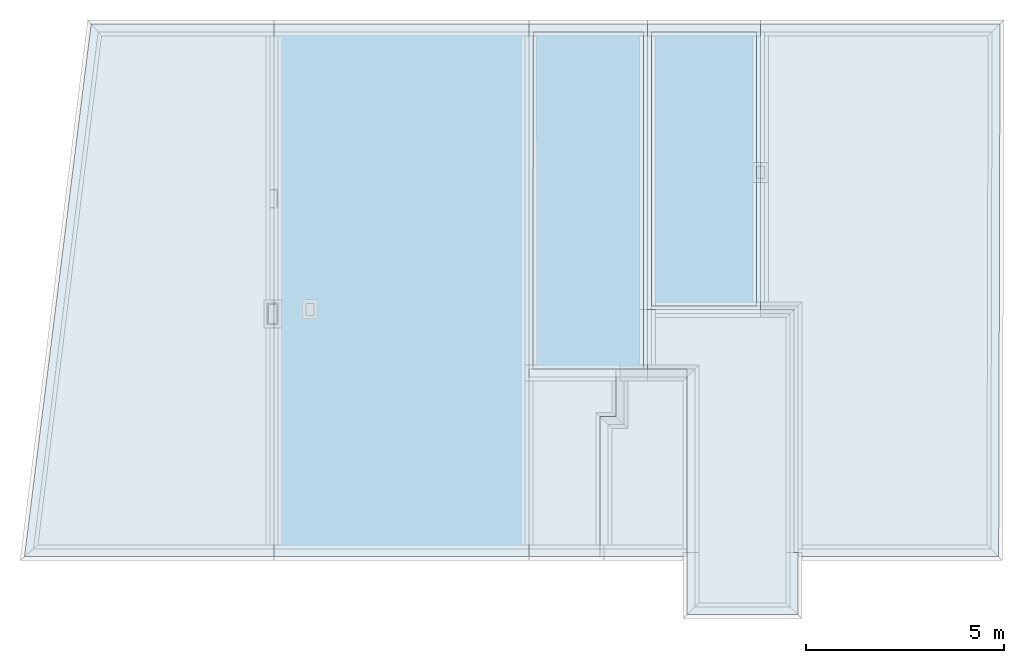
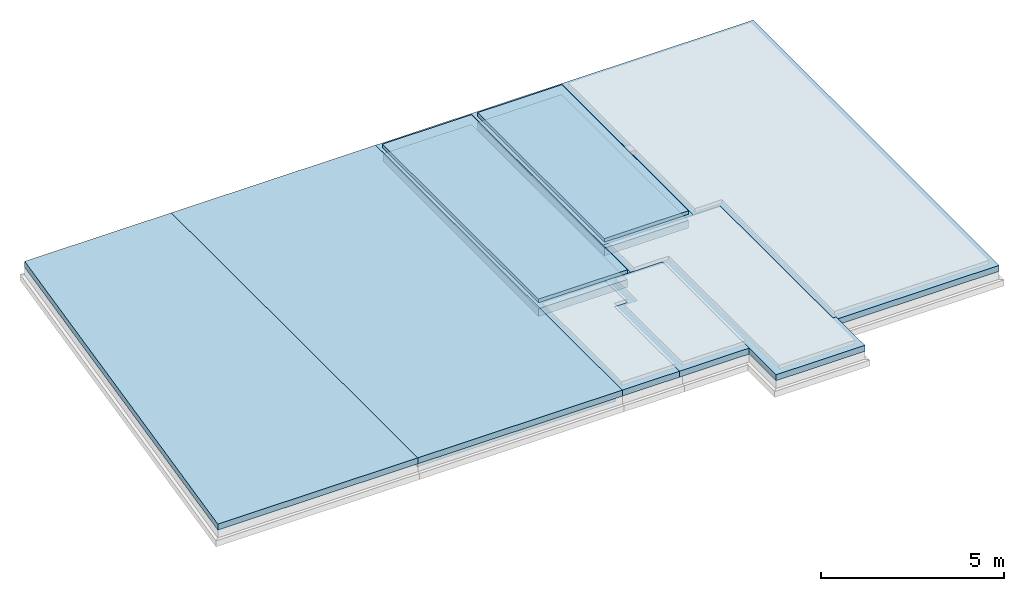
# One storey, part 5 of 6: 12 slabs.
"""IFC2X3 building model written with IfcOpenShell, lengths in metres."""

import ifcopenshell
import ifcopenshell.guid

model = None  # the IFC model being written
_history = None  # IfcOwnerHistory: only IFC2X3 demands one
_inside = {}  # id of a spatial element -> (the spatial element, [elements in it])
_under = {}  # id of a project, library or spatial element -> (it, [spatial elements below it])
_declared = {}  # id of a project -> (the project, [libraries it declares])
_typed = {}  # id of a type object -> (the type object, [elements of that type])
_made_of = {}  # id of a material, layer set ... -> (it, [elements and type objects made of it])


def new_model(schema):
    """Start an empty IFC model of exactly this schema.

    Asked for "IFC4X3", IfcOpenShell would pick the latest addendum, in which some entities
    have other attributes; the version numbers below select the first issue.
    IFC2X3 requires an IfcOwnerHistory on every rooted entity: one is made here for all.
    """
    global model, _history
    if schema == "IFC4X3":
        model = ifcopenshell.file(schema_version=(4, 3, 0, 0))
    else:
        model = ifcopenshell.file(schema=schema)
    _inside.clear()
    _under.clear()
    _declared.clear()
    _typed.clear()
    _made_of.clear()
    _history = None
    if model.schema == "IFC2X3":
        org = make("IfcOrganization", Name="unknown")
        user = make(
            "IfcPersonAndOrganization",
            ThePerson=make("IfcPerson", FamilyName="unknown"),
            TheOrganization=org,
        )
        app = make(
            "IfcApplication",
            ApplicationDeveloper=org,
            Version="unknown",
            ApplicationFullName="unknown",
            ApplicationIdentifier="unknown",
        )
        _history = make(
            "IfcOwnerHistory",
            OwningUser=user,
            OwningApplication=app,
            ChangeAction="ADDED",
            CreationDate=0,
        )
    return model


def make(cls, **values):
    """One entity of the class cls with the attributes given. An attribute that is None is left unset."""
    return model.create_entity(
        cls, **{name: value for name, value in values.items() if value is not None}
    )


def rooted(cls, **values):
    """An entity with a GlobalId (a new one), such as an element, a storey or a relation."""
    return make(cls, GlobalId=ifcopenshell.guid.new(), OwnerHistory=_history, **values)


def si_unit(unit_type, name, prefix=None):
    """IfcSIUnit, for example si_unit("LENGTHUNIT", "METRE", prefix="MILLI")."""
    return make("IfcSIUnit", UnitType=unit_type, Prefix=prefix, Name=name)


def assignment(units):
    """IfcUnitAssignment: the units of a project."""
    return None if units is None else make("IfcUnitAssignment", Units=units)


def point(xyz):
    """IfcCartesianPoint."""
    return None if xyz is None else make("IfcCartesianPoint", Coordinates=xyz)


def direction(xyz):
    """IfcDirection."""
    return None if xyz is None else make("IfcDirection", DirectionRatios=xyz)


def frame(location, z_axis=None, x_axis=None):
    """IfcAxis2Placement3D, a coordinate frame: its origin and axes. An axis left out is left unset."""
    return make(
        "IfcAxis2Placement3D",
        Location=point(location),
        Axis=direction(z_axis),
        RefDirection=direction(x_axis),
    )


def origin_with_axes():
    """The frame at (0, 0, 0) with the z axis (0, 0, 1) and the x axis (1, 0, 0) written out."""
    return frame((0.0, 0.0, 0.0), z_axis=(0.0, 0.0, 1.0), x_axis=(1.0, 0.0, 0.0))


def place(relative_to, where):
    """IfcLocalPlacement: puts the frame where relative to a parent placement (None: the world)."""
    return make(
        "IfcLocalPlacement", PlacementRelTo=relative_to, RelativePlacement=where
    )


def context(
    kind, dimensions, precision=None, world=None, true_north=None, identifier=None
):
    """IfcGeometricRepresentationContext, for example the 3D "Model" context."""
    return make(
        "IfcGeometricRepresentationContext",
        ContextIdentifier=identifier,
        ContextType=kind,
        CoordinateSpaceDimension=dimensions,
        Precision=precision,
        WorldCoordinateSystem=world,
        TrueNorth=true_north,
    )


def subcontext(parent, identifier, kind, view, scale=None):
    """IfcGeometricRepresentationSubContext, for example "Body" below "Model"."""
    return make(
        "IfcGeometricRepresentationSubContext",
        ContextIdentifier=identifier,
        ContextType=kind,
        ParentContext=parent,
        TargetScale=scale,
        TargetView=view,
    )


def project(units=None, contexts=None):
    """IfcProject with its units and contexts."""
    return rooted(
        "IfcProject",
        Name="project",
        RepresentationContexts=contexts,
        UnitsInContext=assignment(units),
    )


def spatial(cls, under=None, at=None, **own):
    """A site, building, storey or space (cls), placed at a placement, below another one or the project."""
    s = rooted(cls, ObjectPlacement=at, **own)
    if under is not None:
        _under.setdefault(under.id(), (under, []))[1].append(s)
    return s


def polyline(points):
    """IfcPolyline through the points."""
    return make("IfcPolyline", Points=[point(p) for p in points])


def outline(outer, holes=None, kind="AREA"):
    """IfcArbitraryClosedProfileDef: a profile drawn as a closed curve; with holes, ...WithVoids."""
    if holes is None:
        return make("IfcArbitraryClosedProfileDef", ProfileType=kind, OuterCurve=outer)
    return make(
        "IfcArbitraryProfileDefWithVoids",
        ProfileType=kind,
        OuterCurve=outer,
        InnerCurves=holes,
    )


def extrude(swept, where, along, depth):
    """IfcExtrudedAreaSolid: the profile swept, set in the frame where, extruded along a direction by depth."""
    return make(
        "IfcExtrudedAreaSolid",
        SweptArea=swept,
        Position=where,
        ExtrudedDirection=direction(along),
        Depth=depth,
    )


def faces_of(points, faces, orient=None, outer=None):
    """IfcFace entities. A face is a list of loops; a loop is a list of indices into points, from 0.

    orient and outer hold one flag for each loop. By default every Orientation is true, the
    first loop of a face is its IfcFaceOuterBound and the others are IfcFaceBound.
    """
    made = []
    for i, loops in enumerate(faces):
        bounds = []
        for j, loop in enumerate(loops):
            is_outer = j == 0 if outer is None else outer[i][j]
            bounds.append(
                make(
                    "IfcFaceOuterBound" if is_outer else "IfcFaceBound",
                    Bound=make("IfcPolyLoop", Polygon=[points[k] for k in loop]),
                    Orientation=True if orient is None else orient[i][j],
                )
            )
        made.append(make("IfcFace", Bounds=bounds))
    return made


def faceted_brep(points, faces, orient=None, outer=None, voids=None):
    """IfcFacetedBrep: a solid bounded by flat faces; with voids (closed shells), ...WithVoids."""
    shared = [point(p) for p in points]
    hull = make("IfcClosedShell", CfsFaces=faces_of(shared, faces, orient, outer))
    if voids is None:
        return make("IfcFacetedBrep", Outer=hull)
    return make(
        "IfcFacetedBrepWithVoids",
        Outer=hull,
        Voids=[
            make(cls, CfsFaces=faces_of(shared, fs, o, b)) for cls, fs, o, b in voids
        ],
    )


def shape(context_of_items, identifier, shape_type, items):
    """IfcShapeRepresentation: the items that make up one representation, for example the "Body"."""
    return make(
        "IfcShapeRepresentation",
        ContextOfItems=context_of_items,
        RepresentationIdentifier=identifier,
        RepresentationType=shape_type,
        Items=items,
    )


def material(Name=None, Category=None):
    """IfcMaterial."""
    return make("IfcMaterial", Name=Name, Category=Category)


def made_of(thing, what):
    """Note that an element or type object is made of a material, layer set ...; save() writes the relation."""
    if what is not None:
        _made_of.setdefault(what.id(), (what, []))[1].append(thing)
    return thing


def element(
    cls,
    number,
    at=None,
    inside=None,
    cuts=None,
    type_object=None,
    material=None,
    context=None,
    identifier="Body",
    shape_type=None,
    held_by="IfcProductDefinitionShape",
    body=None,
    shapes=None,
    **own,
):
    """One element of the class cls, such as IfcWall. Its Tag is "e" and its number.

    at: its placement. inside: the storey or other place that contains it. cuts: it is an
    opening in that element (IfcRelVoidsElement). A single representation is given by context,
    identifier, shape_type and body (its items); several are given by shapes. held_by: the class
    of the entity that holds the representations. save() writes the other relations.
    """
    e = rooted(cls, Tag="e%d" % number, ObjectPlacement=at, **own)
    if body is not None:
        shapes = [shape(context, identifier, shape_type, body)]
    if shapes is not None:
        e.Representation = make(held_by, Representations=shapes)
    if inside is not None:
        _inside.setdefault(inside.id(), (inside, []))[1].append(e)
    if cuts is not None:
        rooted(
            "IfcRelVoidsElement", RelatingBuildingElement=cuts, RelatedOpeningElement=e
        )
    if type_object is not None:
        _typed.setdefault(type_object.id(), (type_object, []))[1].append(e)
    return made_of(e, material)


def aggregate(whole, parts):
    """IfcRelAggregates: a whole, such as a stair, and the parts it consists of."""
    return rooted("IfcRelAggregates", RelatingObject=whole, RelatedObjects=parts)


def save(model, path):
    """Write the relations noted so far, then the file.

    IfcRelAggregates (storeys below a building ...), IfcRelContainedInSpatialStructure (elements
    in a storey), IfcRelDefinesByType, IfcRelAssociatesMaterial and IfcRelDeclares: one each for
    every whole, place, type object, material and project.
    """
    for whole, parts in _under.values():
        aggregate(whole, parts)
    for where, things in _inside.values():
        rooted(
            "IfcRelContainedInSpatialStructure",
            RelatedElements=things,
            RelatingStructure=where,
        )
    for kind, things in _typed.values():
        rooted("IfcRelDefinesByType", RelatedObjects=things, RelatingType=kind)
    for what, things in _made_of.values():
        rooted("IfcRelAssociatesMaterial", RelatedObjects=things, RelatingMaterial=what)
    for by, libraries in _declared.values():
        rooted("IfcRelDeclares", RelatingContext=by, RelatedDefinitions=libraries)
    model.write(path)


model = new_model("IFC2X3")

# Units and contexts
model_context = context("Model", 3, precision=0.0001, world=origin_with_axes(), true_north=direction((0.0, 1.0)))
plan_context = context("Plan", 2, precision=0.0001, world=origin_with_axes(), true_north=direction((0.0, 1.0)))
body_context = subcontext(model_context, "Body", "Model", "MODEL_VIEW")
ifc_project = project(units=[si_unit("MASSUNIT", "GRAM", prefix="KILO"), si_unit("AREAUNIT", "SQUARE_METRE"), si_unit("LENGTHUNIT", "METRE"), si_unit("VOLUMEUNIT", "CUBIC_METRE")], contexts=[plan_context, model_context])

# Site, building, storey
site_placement = place(None, origin_with_axes())
site = spatial("IfcSite", under=ifc_project, at=site_placement, Name="$", CompositionType="ELEMENT")
building_placement = place(site_placement, origin_with_axes())
building = spatial("IfcBuilding", under=site, at=building_placement, Name="Classeur ENS Ensemble", CompositionType="ELEMENT")
storey_placement = place(building_placement, frame((-20.30778888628, -1.812671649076, 0.0), z_axis=(0.0, 0.0, 1.0), x_axis=(1.0, 0.0, 0.0)))
storey = spatial("IfcBuildingStorey", under=building, at=storey_placement, Name="000 Fondations", CompositionType="ELEMENT", Elevation=0.0)

# Slabs
ifc_material = material(Name="Default material")
slab_1_placement = place(storey_placement, frame((33.18329530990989, -11.6673283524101, -0.3199999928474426), z_axis=(0.0, 0.0, 1.0), x_axis=(1.0, 0.0, 0.0)))
element("IfcSlab", 1, at=slab_1_placement, inside=storey, material=ifc_material, Name="dallage porté 20 cm", PredefinedType="FLOOR", context=body_context, shape_type="SweptSolid", held_by="IfcProductRepresentation", body=[
    extrude(outline(polyline([(0.9261974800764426, 1.995534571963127), (0.0, 0.0), (3.210996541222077, -1.490335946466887), (3.379396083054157, -1.127511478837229), (4.467869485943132, -1.632710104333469), (4.467869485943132, -1.632710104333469), (5.225667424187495, 0.0), (5.225667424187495, 0.0), (0.9261974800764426, 1.995534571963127)])), frame((0.0, 0.0, 0.0), z_axis=(0.0, 0.0, -1.0), x_axis=(0.4209988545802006, 0.9070611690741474, 0.0)), (0.0, 0.0, -1.0), 0.2000000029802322),
])
slab_2_placement = place(storey_placement, frame((34.3832953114, -5.427326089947, -0.3199999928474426), z_axis=(0.0, 0.0, 1.0), x_axis=(1.0, 0.0, 0.0)))
element("IfcSlab", 2, at=slab_2_placement, inside=storey, material=ifc_material, Name="dallage porté 20 cm", PredefinedType="FLOOR", context=body_context, shape_type="SweptSolid", held_by="IfcProductRepresentation", body=[
    extrude(outline(polyline([(0.0, 0.0), (-0.0001632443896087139, -7.219997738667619), (2.849836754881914, -7.220062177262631), (2.849836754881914, -7.220062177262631), (2.849999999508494, 0.0), (2.849999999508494, 0.0), (0.0, 0.0)])), frame((0.0, 0.0, 0.0), z_axis=(0.0, 0.0, -1.0), x_axis=(0.9999999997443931, -2.261003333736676e-05, 0.0)), (0.0, 0.0, -1.0), 0.2000000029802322),
])
slab_3_placement = place(storey_placement, frame((37.23329531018, -5.427390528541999, -0.3199999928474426), z_axis=(0.0, 0.0, 1.0), x_axis=(1.0, 0.0, 0.0)))
element("IfcSlab", 3, at=slab_3_placement, inside=storey, material=ifc_material, Name="dallage porté 20 cm", PredefinedType="FLOOR", context=body_context, shape_type="SweptSolid", held_by="IfcProductRepresentation", body=[
    extrude(outline(polyline([(-0.9113442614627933, 8.623520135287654), (-4.234694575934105, 4.661189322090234), (0.5462158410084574, 0.6512666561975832), (0.0, 0.0), (0.0, 0.0), (5.531878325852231, -4.639786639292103), (9.4234353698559, 0.0), (9.4234353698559, 0.0), (-0.9113442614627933, 8.623520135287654)])), frame((0.0, 0.0, 0.0), z_axis=(0.0, 0.0, -1.0), x_axis=(0.6426241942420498, 0.7661815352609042, 0.0)), (0.0, 0.0, -1.0), 0.2000000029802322),
])
slab_4_placement = place(storey_placement, frame((34.3832953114, -6.927328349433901, -0.3199999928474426), z_axis=(0.0, 0.0, 1.0), x_axis=(1.0, 0.0, 0.0)))
element("IfcSlab", 4, at=slab_4_placement, inside=storey, material=ifc_material, Name="dallage porté 20 cm", PredefinedType="FLOOR", context=body_context, shape_type="SweptSolid", held_by="IfcProductRepresentation", body=[
    extrude(outline(polyline([(7.208244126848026, -0.9915854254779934), (5.434161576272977, -3.157833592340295), (5.434161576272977, -3.157833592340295), (0.6336009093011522, 0.7736600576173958), (0.0, 0.0), (-1.160491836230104, 0.9504027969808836), (-1.160491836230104, 0.9504027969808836), (1.183896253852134, 3.812892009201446), (5.93410604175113, -0.07736600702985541), (5.997466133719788, 0.0), (5.997466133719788, 0.0), (7.208244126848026, -0.9915854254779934)])), frame((0.0, 0.0, 0.0), z_axis=(0.0, 0.0, 1.0), x_axis=(0.6336009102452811, -0.773660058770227, 0.0)), (0.0, 0.0, 1.0), 0.2000000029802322),
])
slab_5_placement = place(storey_placement, frame((31.38326314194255, 1.7926716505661, -0.3199999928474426), z_axis=(0.0, 0.0, 1.0), x_axis=(1.0, 0.0, 0.0)))
element("IfcSlab", 5, at=slab_5_placement, inside=storey, material=ifc_material, Name="dallage porté 20 cm", PredefinedType="FLOOR", context=body_context, shape_type="SweptSolid", held_by="IfcProductRepresentation", body=[
    extrude(outline(polyline([(0.0004825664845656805, -3.000032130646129), (0.0004825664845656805, -3.000032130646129), (8.720482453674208, -2.998629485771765), (8.72036985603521, -2.29862949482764), (8.920369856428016, -2.298597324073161), (8.920353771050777, -2.198597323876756), (9.920353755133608, -2.198436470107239), (9.920289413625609, -1.798436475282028), (13.46028946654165, -1.797867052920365), (13.46000199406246, 4.336808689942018e-19), (0.0, 0.0), (0.0, 0.0), (0.0004825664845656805, -3.000032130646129)])), frame((0.0, 0.0, 0.0), z_axis=(0.0, 0.0, -1.0), x_axis=(0.0001608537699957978, -0.9999999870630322, 0.0)), (0.0, 0.0, -1.0), 0.2000000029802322),
])
slab_6_placement = place(storey_placement, frame((24.94329531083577, -11.66733633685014, -0.12), z_axis=(0.0, 0.0, 1.0), x_axis=(1.0, 0.0, 0.0)))
element("IfcSlab", 6, at=slab_6_placement, inside=storey, material=ifc_material, Name="dallage porté 20 cm", PredefinedType="FLOOR", context=body_context, shape_type="Brep", held_by="IfcProductRepresentation", body=[
    faceted_brep([(6.44213292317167, 6.167485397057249e-06, -0.2000000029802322), (0.0, 0.0, -0.2000000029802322), (6.439967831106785, 13.46000798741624, -0.2000000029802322), (4.227729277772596e-12, 13.46000798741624, 0.0), (6.439967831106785, 13.46000798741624, 0.0), (6.439967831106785, 13.46000798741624, -0.2000000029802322), (4.227729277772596e-12, 13.46000798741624, -0.2000000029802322), (6.439967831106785, 13.46000798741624, 0.0), (6.44213292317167, 6.167485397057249e-06, 0.0), (6.44213292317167, 6.167485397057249e-06, -0.2000000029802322), (6.439967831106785, 13.46000798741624, -0.2000000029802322), (4.227729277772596e-12, 13.46000798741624, -0.2000000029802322), (6.439967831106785, 13.46000798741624, -0.2000000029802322), (0.0, 0.0, -0.2000000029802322), (0.0, 0.0, 0.0), (6.439967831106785, 13.46000798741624, 0.0), (4.227729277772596e-12, 13.46000798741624, 0.0), (6.44213292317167, 6.167485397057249e-06, 0.0), (0.0, 0.0, 0.0), (0.0, 0.0, -0.2000000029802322), (6.44213292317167, 6.167485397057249e-06, -0.2000000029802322), (6.439967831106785, 13.46000798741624, 0.0), (0.0, 0.0, 0.0), (6.44213292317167, 6.167485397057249e-06, 0.0), (0.0, 0.0, 0.0), (4.227729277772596e-12, 13.46000798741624, 0.0), (4.227729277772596e-12, 13.46000798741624, -0.2000000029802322), (0.0, 0.0, -0.2000000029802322)], [[[0, 1, 2]], [[3, 4, 5, 6]], [[7, 8, 9, 10]], [[11, 12, 13]], [[14, 15, 16]], [[17, 18, 19, 20]], [[21, 22, 23]], [[24, 25, 26, 27]]]),
])
slab_7_placement = place(storey_placement, frame((18.64083080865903, -11.66733266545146, -0.12), z_axis=(0.0, 0.0, 1.0), x_axis=(1.0, 0.0, 0.0)))
element("IfcSlab", 7, at=slab_7_placement, inside=storey, material=ifc_material, Name="dallage porté 20 cm", PredefinedType="FLOOR", context=body_context, shape_type="Brep", held_by="IfcProductRepresentation", body=[
    faceted_brep([(6.30246450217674, -3.671398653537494e-06, -0.2000000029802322), (0.0, 0.0, -0.2000000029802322), (1.684610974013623, 13.46000431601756, -0.2000000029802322), (6.302464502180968, 13.46000431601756, -0.2000000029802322), (6.30246450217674, -3.671398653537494e-06, -0.2000000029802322), (1.684610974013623, 13.46000431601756, -0.2000000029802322), (0.0, 0.0, 0.0), (1.684610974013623, 13.46000431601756, 0.0), (1.684610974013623, 13.46000431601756, -0.2000000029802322), (0.0, 0.0, -0.2000000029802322), (1.684610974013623, 13.46000431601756, 0.0), (6.30246450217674, -3.671398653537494e-06, 0.0), (6.302464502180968, 13.46000431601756, 0.0), (6.302464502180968, 13.46000431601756, 0.0), (6.30246450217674, -3.671398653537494e-06, 0.0), (6.30246450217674, -3.671398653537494e-06, -0.2000000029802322), (6.302464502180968, 13.46000431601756, -0.2000000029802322), (1.684610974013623, 13.46000431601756, 0.0), (0.0, 0.0, 0.0), (6.30246450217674, -3.671398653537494e-06, 0.0), (6.30246450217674, -3.671398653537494e-06, 0.0), (0.0, 0.0, 0.0), (0.0, 0.0, -0.2000000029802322), (6.30246450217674, -3.671398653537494e-06, -0.2000000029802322), (1.684610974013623, 13.46000431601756, 0.0), (6.302464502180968, 13.46000431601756, 0.0), (6.302464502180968, 13.46000431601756, -0.2000000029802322), (1.684610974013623, 13.46000431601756, -0.2000000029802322)], [[[0, 1, 2]], [[3, 4, 5]], [[6, 7, 8, 9]], [[10, 11, 12]], [[13, 14, 15, 16]], [[17, 18, 19]], [[20, 21, 22, 23]], [[24, 25, 26, 27]]]),
])
slab_8_placement = place(storey_placement, frame((31.483296, -6.922328, 0.0), z_axis=(0.0, 0.0, 1.0), x_axis=(1.0, 0.0, 0.0)))
element("IfcSlab", 8, at=slab_8_placement, inside=storey, material=ifc_material, Name="chape sur isolant 12 cm", PredefinedType="FLOOR", context=body_context, shape_type="Brep", held_by="IfcProductRepresentation", body=[
    faceted_brep([(2.800000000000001, 8.515, 0.0), (2.800000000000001, -0.004999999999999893, 0.0), (2.800000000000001, -0.004999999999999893, -0.119999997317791), (2.800000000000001, 8.515, -0.119999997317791), (0.0, 8.515, 0.0), (0.0, 0.0, 0.0), (2.800000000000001, 8.515, 0.0), (0.0, 8.515, 0.0), (2.800000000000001, 8.515, 0.0), (2.800000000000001, 8.515, -0.119999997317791), (0.0, 8.515, -0.119999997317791), (0.0, 0.0, 0.0), (2.800000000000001, -0.004999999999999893, 0.0), (2.800000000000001, 8.515, 0.0), (2.800000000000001, -0.004999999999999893, 0.0), (0.0, 0.0, 0.0), (0.0, 0.0, -0.119999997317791), (2.800000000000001, -0.004999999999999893, -0.119999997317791), (2.800000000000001, 8.515, -0.119999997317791), (2.800000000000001, -0.004999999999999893, -0.119999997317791), (0.0, 0.0, -0.119999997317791), (0.0, 0.0, 0.0), (0.0, 8.515, 0.0), (0.0, 8.515, -0.119999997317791), (0.0, 0.0, -0.119999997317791), (2.800000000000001, 8.515, -0.119999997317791), (0.0, 0.0, -0.119999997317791), (0.0, 8.515, -0.119999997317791)], [[[0, 1, 2, 3]], [[4, 5, 6]], [[7, 8, 9, 10]], [[11, 12, 13]], [[14, 15, 16, 17]], [[18, 19, 20]], [[21, 22, 23, 24]], [[25, 26, 27]]]),
])
slab_9_placement = place(storey_placement, frame((34.483296, 1.592672, 0.0), z_axis=(0.0, 0.0, 1.0), x_axis=(1.0, 0.0, 0.0)))
element("IfcSlab", 9, at=slab_9_placement, inside=storey, material=ifc_material, Name="chape sur isolant 12 cm", PredefinedType="FLOOR", context=body_context, shape_type="Brep", held_by="IfcProductRepresentation", body=[
    faceted_brep([(2.649999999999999, 0.0, -0.119999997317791), (2.649999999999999, -6.920000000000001, -0.119999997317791), (0.0, 0.0, -0.119999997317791), (0.0, 0.0, 0.0), (2.649999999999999, -6.920000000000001, 0.0), (2.649999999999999, 0.0, 0.0), (0.0, -6.920000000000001, 0.0), (2.649999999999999, -6.920000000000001, 0.0), (0.0, 0.0, 0.0), (2.649999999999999, 0.0, 0.0), (2.649999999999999, -6.920000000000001, 0.0), (2.649999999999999, -6.920000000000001, -0.119999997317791), (2.649999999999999, 0.0, -0.119999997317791), (0.0, 0.0, 0.0), (2.649999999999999, 0.0, 0.0), (2.649999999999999, 0.0, -0.119999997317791), (0.0, 0.0, -0.119999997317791), (0.0, -6.920000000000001, 0.0), (0.0, 0.0, 0.0), (0.0, 0.0, -0.119999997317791), (0.0, -6.920000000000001, -0.119999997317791), (2.649999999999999, -6.920000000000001, 0.0), (0.0, -6.920000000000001, 0.0), (0.0, -6.920000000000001, -0.119999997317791), (2.649999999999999, -6.920000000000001, -0.119999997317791), (0.0, 0.0, -0.119999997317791), (2.649999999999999, -6.920000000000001, -0.119999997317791), (0.0, -6.920000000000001, -0.119999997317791)], [[[0, 1, 2]], [[3, 4, 5]], [[6, 7, 8]], [[9, 10, 11, 12]], [[13, 14, 15, 16]], [[17, 18, 19, 20]], [[21, 22, 23, 24]], [[25, 26, 27]]]),
])
slab_10_placement = place(storey_placement, frame((25.043296, -11.467331, -0.32), z_axis=(0.0, 0.0, 1.0), x_axis=(1.0, 0.0, 0.0)))
element("IfcSlab", 10, at=slab_10_placement, inside=storey, material=ifc_material, Name="hérisson 26 cm", PredefinedType="FLOOR", context=body_context, shape_type="Brep", held_by="IfcProductRepresentation", body=[
    faceted_brep([(6.242101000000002, 2.999999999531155e-06, 0.0), (0.0, 0.0, 0.0), (0.0, 0.0, -0.2599999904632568), (6.242101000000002, 2.999999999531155e-06, -0.2599999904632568), (6.240000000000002, 13.060003, 0.0), (6.242101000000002, 2.999999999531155e-06, 0.0), (6.242101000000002, 2.999999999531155e-06, -0.2599999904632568), (6.240000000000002, 13.060003, -0.2599999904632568), (6.240000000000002, 13.060003, -0.2599999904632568), (0.0, 0.0, -0.2599999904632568), (0.0, 13.060003, -0.2599999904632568), (0.0, 0.0, 0.0), (0.0, 13.060003, 0.0), (0.0, 13.060003, -0.2599999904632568), (0.0, 0.0, -0.2599999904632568), (0.0, 13.060003, 0.0), (6.240000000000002, 13.060003, 0.0), (6.240000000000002, 13.060003, -0.2599999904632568), (0.0, 13.060003, -0.2599999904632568), (6.240000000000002, 13.060003, -0.2599999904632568), (6.242101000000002, 2.999999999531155e-06, -0.2599999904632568), (0.0, 0.0, -0.2599999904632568), (0.0, 13.060003, 0.0), (0.0, 0.0, 0.0), (6.240000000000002, 13.060003, 0.0), (0.0, 0.0, 0.0), (6.242101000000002, 2.999999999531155e-06, 0.0), (6.240000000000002, 13.060003, 0.0)], [[[0, 1, 2, 3]], [[4, 5, 6, 7]], [[8, 9, 10]], [[11, 12, 13, 14]], [[15, 16, 17, 18]], [[19, 20, 21]], [[22, 23, 24]], [[25, 26, 27]]]),
])
slab_11_placement = place(storey_placement, frame((31.483296, -6.922328, -0.32), z_axis=(0.0, 0.0, 1.0), x_axis=(1.0, 0.0, 0.0)))
element("IfcSlab", 11, at=slab_11_placement, inside=storey, material=ifc_material, Name="hérisson 26 cm", PredefinedType="FLOOR", context=body_context, shape_type="Brep", held_by="IfcProductRepresentation", body=[
    faceted_brep([(0.0, 0.0, 0.0), (2.800000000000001, -0.004999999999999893, 0.0), (0.01999999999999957, 8.515, 0.0), (2.800000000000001, 8.515, 0.0), (2.800000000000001, -0.004999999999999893, 0.0), (2.800000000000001, -0.004999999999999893, -0.2599999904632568), (2.800000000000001, 8.515, -0.2599999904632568), (0.01999999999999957, 8.515, -0.2599999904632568), (2.800000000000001, -0.004999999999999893, -0.2599999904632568), (0.0, 0.0, -0.2599999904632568), (0.0, 0.0, 0.0), (0.01999999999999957, 8.515, 0.0), (0.01999999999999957, 8.515, -0.2599999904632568), (0.0, 0.0, -0.2599999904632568), (0.01999999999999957, 8.515, 0.0), (2.800000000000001, 8.515, 0.0), (2.800000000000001, 8.515, -0.2599999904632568), (0.01999999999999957, 8.515, -0.2599999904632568), (2.800000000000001, 8.515, -0.2599999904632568), (2.800000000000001, -0.004999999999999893, -0.2599999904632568), (0.01999999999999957, 8.515, -0.2599999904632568), (0.01999999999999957, 8.515, 0.0), (2.800000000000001, -0.004999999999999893, 0.0), (2.800000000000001, 8.515, 0.0), (2.800000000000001, -0.004999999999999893, 0.0), (0.0, 0.0, 0.0), (0.0, 0.0, -0.2599999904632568), (2.800000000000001, -0.004999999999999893, -0.2599999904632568)], [[[0, 1, 2]], [[3, 4, 5, 6]], [[7, 8, 9]], [[10, 11, 12, 13]], [[14, 15, 16, 17]], [[18, 19, 20]], [[21, 22, 23]], [[24, 25, 26, 27]]]),
])
slab_12_placement = place(storey_placement, frame((34.483296, 1.592672, -0.32), z_axis=(0.0, 0.0, 1.0), x_axis=(1.0, 0.0, 0.0)))
element("IfcSlab", 12, at=slab_12_placement, inside=storey, material=ifc_material, Name="hérisson 26 cm", PredefinedType="FLOOR", context=body_context, shape_type="Brep", held_by="IfcProductRepresentation", body=[
    faceted_brep([(8.499999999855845e-05, -6.920084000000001, 0.0), (2.649999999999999, -6.920000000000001, 0.0), (0.0, 0.0, 0.0), (2.649999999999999, 0.0, -0.2599999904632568), (2.649999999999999, -6.920000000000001, -0.2599999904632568), (0.0, 0.0, -0.2599999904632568), (2.649999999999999, 0.0, 0.0), (2.649999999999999, -6.920000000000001, 0.0), (2.649999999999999, -6.920000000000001, -0.2599999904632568), (2.649999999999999, 0.0, -0.2599999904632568), (0.0, 0.0, 0.0), (2.649999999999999, 0.0, 0.0), (2.649999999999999, 0.0, -0.2599999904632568), (0.0, 0.0, -0.2599999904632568), (2.649999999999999, -6.920000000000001, 0.0), (8.499999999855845e-05, -6.920084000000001, 0.0), (8.499999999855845e-05, -6.920084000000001, -0.2599999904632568), (2.649999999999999, -6.920000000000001, -0.2599999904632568), (0.0, 0.0, -0.2599999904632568), (2.649999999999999, -6.920000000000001, -0.2599999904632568), (8.499999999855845e-05, -6.920084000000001, -0.2599999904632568), (0.0, 0.0, 0.0), (2.649999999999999, -6.920000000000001, 0.0), (2.649999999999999, 0.0, 0.0), (8.499999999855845e-05, -6.920084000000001, 0.0), (0.0, 0.0, 0.0), (0.0, 0.0, -0.2599999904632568), (8.499999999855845e-05, -6.920084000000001, -0.2599999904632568)], [[[0, 1, 2]], [[3, 4, 5]], [[6, 7, 8, 9]], [[10, 11, 12, 13]], [[14, 15, 16, 17]], [[18, 19, 20]], [[21, 22, 23]], [[24, 25, 26, 27]]]),
])

save(model, "model.ifc")
